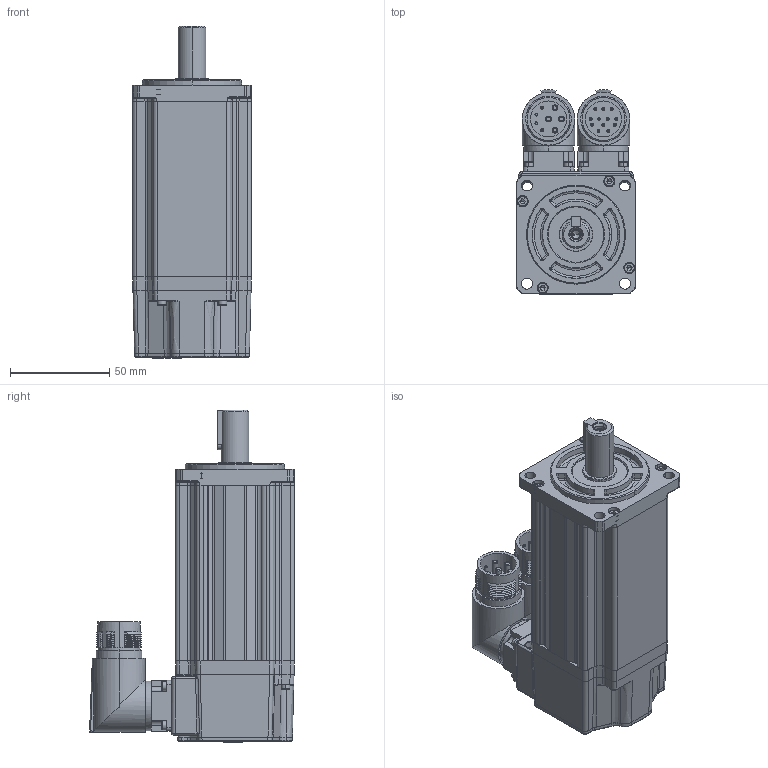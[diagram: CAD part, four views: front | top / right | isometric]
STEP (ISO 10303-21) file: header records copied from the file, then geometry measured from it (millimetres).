
FILE_DESCRIPTION (( 'STEP AP203' ), '1' );
FILE_NAME ('MC20-060-3L30-N401-1¡õPK-NNNN.STEP', '2025-05-04T11:11:00', ( '' ), ( '' ), 'SwSTEP 2.0', 'SolidWorks 2014', '' );
FILE_SCHEMA (( 'CONFIG_CONTROL_DESIGN' ));
Length unit declared in the file: millimetre
Products named in the file (1): MC20-060-3L30-N401-1¡õPK-NNNN
Bounding box: 60 x 103.37 x 167.5 mm (x, y, z)
Volume: 497205.8 mm3; surface area: 98217.4 mm2
Topology: 24 solids, 24 shells, 1866 faces, 4426 edges, 2679 vertices
Faces by surface type: plane 747, cylinder 508, cone 334, bspline 131, torus 126, sphere 20
Entity records: 55808 total; most frequent: CARTESIAN_POINT 13671, DIRECTION 8832, ORIENTED_EDGE 8720, EDGE_CURVE 4360, AXIS2_PLACEMENT_3D 3353, VERTEX_POINT 2679, LINE 2126, VECTOR 2126
